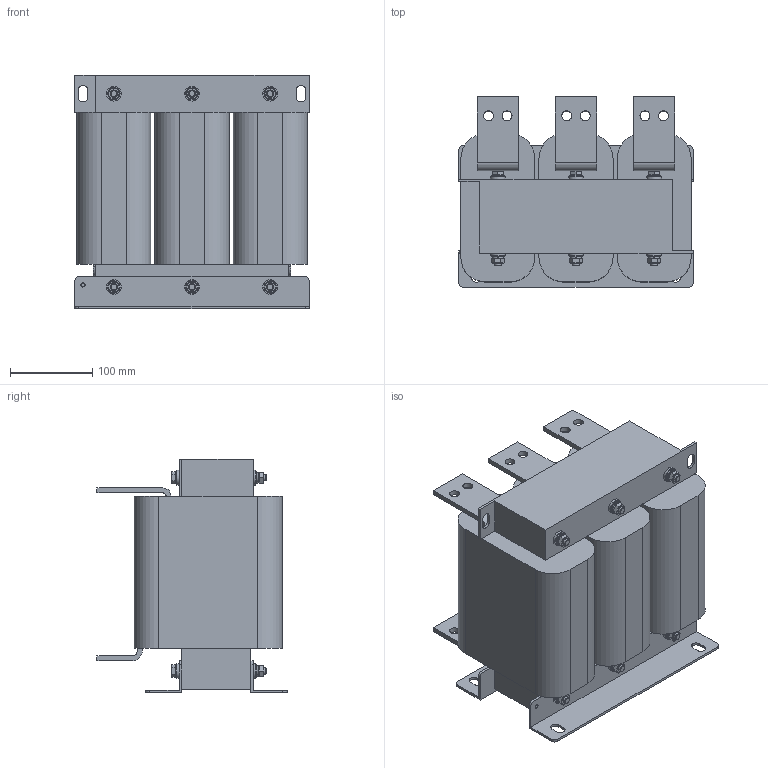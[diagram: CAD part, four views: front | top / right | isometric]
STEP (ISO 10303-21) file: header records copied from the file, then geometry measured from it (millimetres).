
FILE_DESCRIPTION(('STEP AP203'), '1');
FILE_NAME('栖闉罻 _ ISF-315_605-4', '', ('UNSPECIFIED'), ('UNSPECIFIED'), 'ASCON STEP Converter 1.6', 'ASCON Math Kernel', '');
FILE_SCHEMA(('CONFIG_CONTROL_DESIGN'));
Length unit declared in the file: millimetre
Products named in the file (12): ISF-315_605-4
Assembly tree (55 placements, depth 2):
  ISF-315_605-4
    ISF-315_605-4
    ISF-315_605-4  x2
    ISF-315_605-4  x3
    ISF-315_605-4
    ISF-315_605-4  x12
    ISF-315_605-4  x12
    ISF-315_605-4  x6
    ISF-315_605-4  x6
    ISF-315_605-4  x6
    ISF-315_605-4  x3
    ISF-315_605-4  x3
Bounding box: 285 x 231 x 284 mm (x, y, z)
Volume: 10792519.3 mm3; surface area: 708635.8 mm2
Topology: 55 solids, 55 shells, 582 faces, 1236 edges, 770 vertices
Faces by surface type: plane 422, cylinder 130, cone 18, torus 12
Full cylindrical faces by diameter (mm): 5 x2, 8 x48, 12 x12, 15 x12, 18 x12
Entity records: 6174 total; most frequent: CARTESIAN_POINT 1046, DIRECTION 806, ORIENTED_EDGE 638, EDGE_CURVE 319, AXIS2_PLACEMENT_3D 289, LINE 228, VECTOR 228, VERTEX_POINT 219
